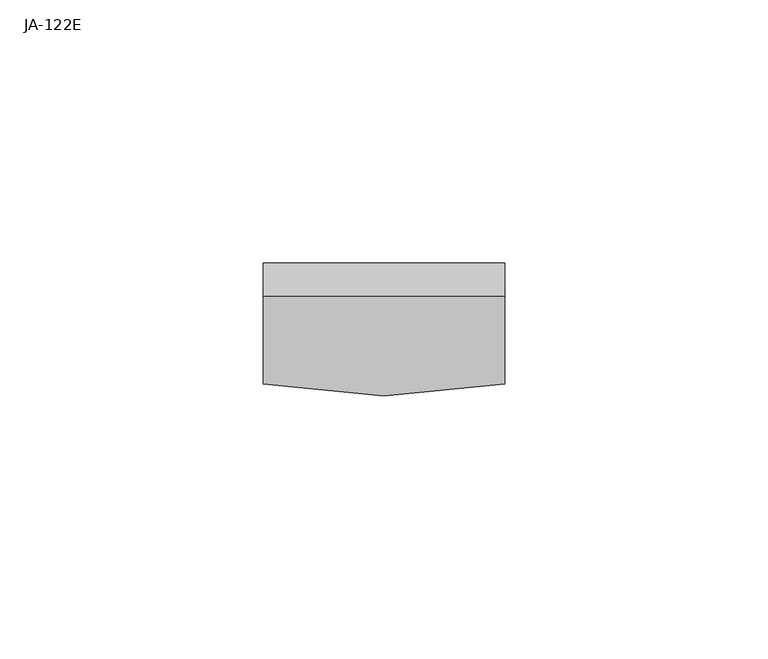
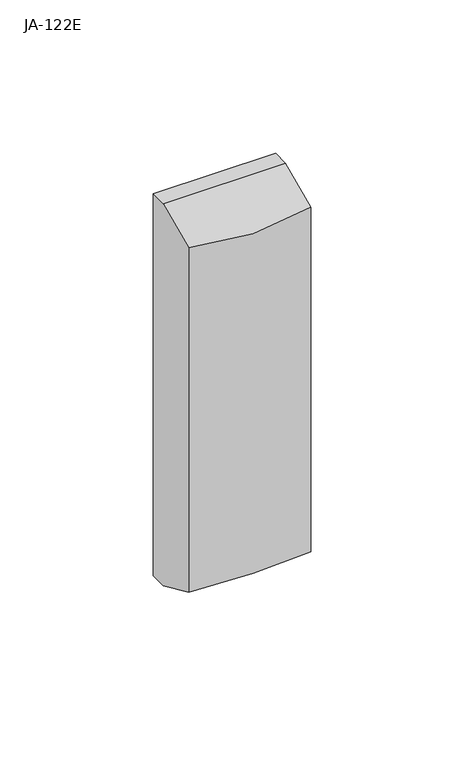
"""IFC4 building model written with IfcOpenShell, lengths in millimetres: proxy geometry, Klávesnice.CC : JA-122E."""

from ifc_helpers import new_model, si_unit, frame, origin, place, context, project, spatial, ellipse_curve, source, transform, mapped, element, save
from ifc_brep_helpers import plane_surface, cylinder_surface, advanced_brep


def ja_122e_b30d667c(model_context):
    return source(origin(), model_context, "Body", "AdvancedBrep", [
        advanced_brep(
        [(23.0, 0.0, 76.0), (-23.0, 0.0, 76.0), (-23.0, -6.3065106, 76.0), (23.0, -6.3065106, 76.0), (-23.0, 0.0, -76.0), (23.0, 0.0, -76.0), (23.0, -6.3065106, -76.0), (-23.0, -6.3065106, -76.0), (-23.0, -23.0, -68.5675797), (-23.0, -23.0, 68.5675797), (23.0, -23.0, -68.5675797), (23.0, -23.0, 68.5675797)],
        [
            (0, 1),
            (1, 2),
            (2, 3),
            (3, 0),
            (4, 5),
            (5, 6),
            (6, 7),
            (7, 4),
            (0, 5),
            (4, 1),
            (7, 8),
            (8, 9),
            (9, 2),
            (8, 10, ellipse_curve(frame((0.0, 89.0661219, -118.4626318), z_axis=(0.0, 0.40673664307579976, 0.9135454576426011), x_axis=(0.0, -0.9135454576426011, 0.4067366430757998)), 125.2285703, 114.4019916)),
            (10, 11),
            (11, 9, ellipse_curve(frame((0.0, 89.0661219, 118.4626318), z_axis=(0.0, 0.40673664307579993, -0.9135454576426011), x_axis=(0.0, 0.9135454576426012, 0.40673664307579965)), 125.2285703, 114.4019916)),
            (3, 11),
            (10, 6),
        ],
        [
            plane_surface(frame((-35.0863911, 0.0, 76.0), z_axis=(0.0, 0.0, 1.0), x_axis=(-1.0, 0.0, 0.0))),
            plane_surface(frame((-35.0863911, 0.0, -76.0), z_axis=(0.0, 0.0, -1.0), x_axis=(1.0, 0.0, 0.0))),
            plane_surface(frame((23.0, 0.0, 76.0), z_axis=(0.0, 1.0, 0.0), x_axis=(0.0, 0.0, -1.0))),
            plane_surface(frame((-23.0, 0.0, 76.0), z_axis=(-1.0, 0.0, 0.0), x_axis=(0.0, 0.0, -1.0))),
            cylinder_surface(frame((0.0, 89.0661219, -76.0), z_axis=(0.0, 0.0, 1.0), x_axis=(1.0, 0.0, 0.0)), 114.4019916),
            plane_surface(frame((23.0, -23.0, 76.0), z_axis=(1.0, 0.0, 0.0), x_axis=(0.0, 0.0, -1.0))),
            plane_surface(frame((28.8406156, -29.6122785, 65.6236036), z_axis=(0.0, -0.40673664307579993, 0.9135454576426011), x_axis=(-1.0, 0.0, 0.0))),
            plane_surface(frame((28.8406156, 6.7544259, -81.8151036), z_axis=(0.0, -0.40673664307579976, -0.9135454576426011), x_axis=(-1.0, 0.0, 0.0))),
        ],
        [
            (0, [[1, 2, 3, 4]]),
            (1, [[5, 6, 7, 8]]),
            (2, [[-1, 9, -5, 10]]),
            (3, [[-10, -8, 11, 12, 13, -2]]),
            (4, [[-12, 14, 15, 16]]),
            (5, [[-9, -4, 17, -15, 18, -6]]),
            (6, [[-3, -13, -16, -17]]),
            (7, [[-7, -18, -14, -11]]),
        ],
    ),
    ])


if __name__ == "__main__":
    model = new_model("IFC4")
    model_context = context("Model", 3, world=origin())
    ifc_project = project(units=[si_unit("LENGTHUNIT", "METRE", prefix="MILLI")], contexts=[model_context])
    site = spatial("IfcSite", under=ifc_project)
    building = spatial("IfcBuilding", under=site)
    placement = place(None, origin())
    ja_122e_shape = ja_122e_b30d667c(model_context)
    element("IfcBuildingElementProxy", 1, Name="Klávesnice.CC : JA-122E", ObjectType="Klávesnice.CC : JA-122E", at=placement, inside=building, context=model_context, shape_type="MappedRepresentation", body=[
        mapped(ja_122e_shape, transform((0.0, 0.0, 0.0), x_axis=(1.0, 0.0, 0.0), y_axis=(0.0, 1.0, 0.0), z_axis=(0.0, 0.0, 1.0))),
    ])
    save(model, "model.ifc")
